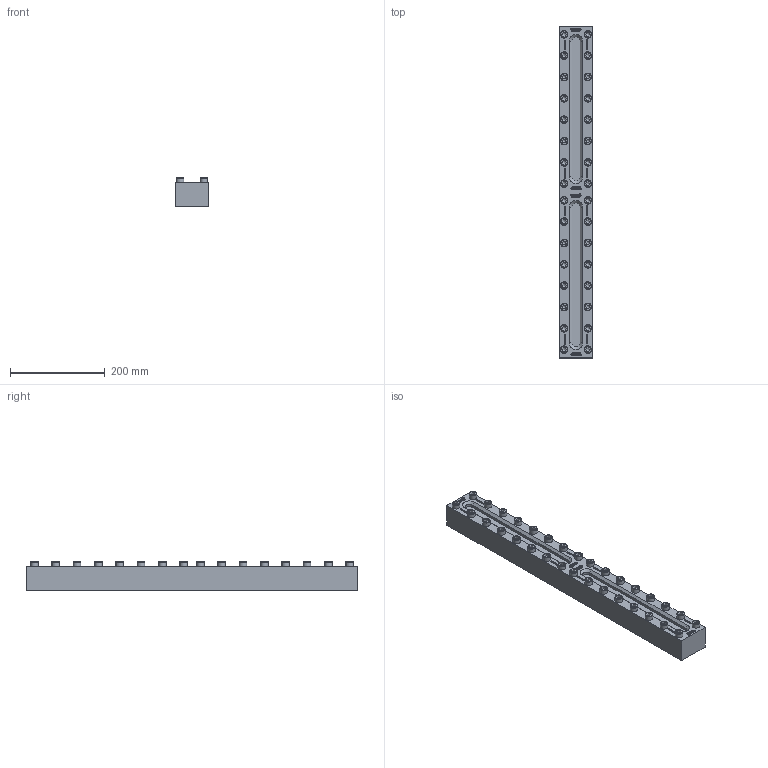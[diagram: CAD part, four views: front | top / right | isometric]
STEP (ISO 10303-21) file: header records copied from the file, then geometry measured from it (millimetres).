
FILE_DESCRIPTION(/* description */ (''),/* implementation_level */ '2;1');
FILE_NAME(/* name */ 'W:\Konstruktion_ACI\330\_Zeichnungen\STEP\ACI-330-700-16.stp',/* time_stamp */ '2022-03-01T17:22:47+01:00',/* author */ ('koslowksi'),/* organization */ (''),/* preprocessor_version */ 'ST-DEVELOPER v16.1',/* originating_system */ 'Autodesk Inventor 2016',/* authorisation */ '');
FILE_SCHEMA (('AUTOMOTIVE_DESIGN { 1 0 10303 214 3 1 1 }'));
Products named in the file (1): ACI-330-700-16.stp
Bounding box: 70 x 700 x 60.9 mm (x, y, z)
Volume: 2254709.8 mm3; surface area: 225912 mm2
Topology: 1 solids, 1 shells, 2566 faces, 6944 edges, 4616 vertices
Faces by surface type: plane 1822, bspline 636, cylinder 40, cone 36, torus 32
Full cylindrical faces by diameter (mm): 16 x32
Entity records: 84132 total; most frequent: CARTESIAN_POINT 22555, ORIENTED_EDGE 13568, DIRECTION 9298, EDGE_CURVE 6784, LINE 5204, VECTOR 5204, VERTEX_POINT 4552, EDGE_LOOP 2898
